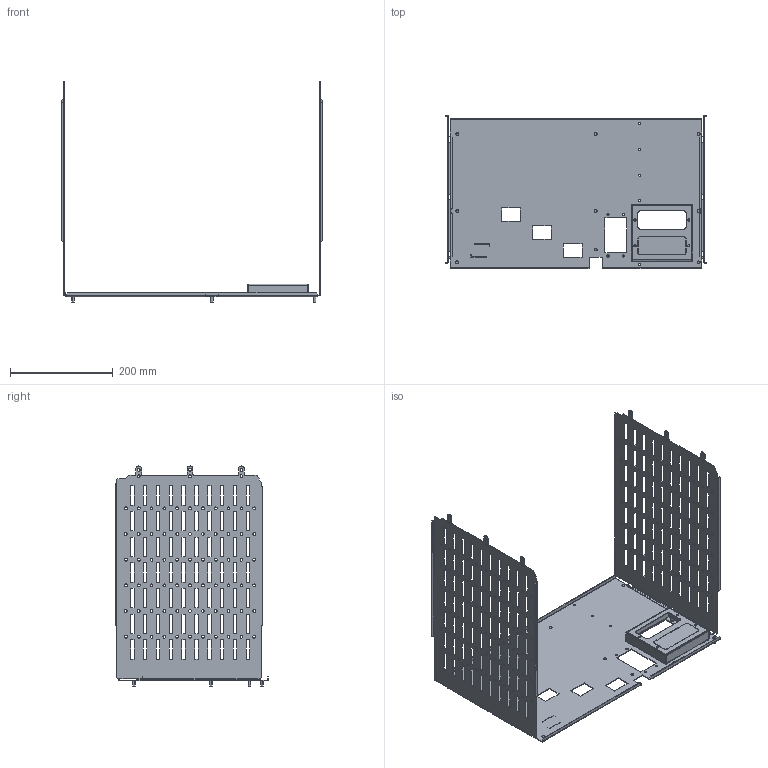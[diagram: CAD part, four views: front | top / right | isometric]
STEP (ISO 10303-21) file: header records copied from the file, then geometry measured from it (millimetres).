
FILE_DESCRIPTION(('CAx-IF Rec.Pracs.---Model Styling and Organization---1.2---2011-12-15','CAx-IF Rec.Pracs.---Geometric and Assembly Validation Properties---4.1---2014-06-16','CAx-IF Rec.Pracs.---PMI Polyline Presentation---2.0---2013-05-24'),'2;1');
FILE_NAME('R5M2W6M1A21.stp','2021-05-05T12:29:34+03:00',(''),(''),'STEP Interface 4.4 by CT CoreTechnologie','3D_Evolution4.4 by CT CoreTechnologie','');
FILE_SCHEMA(('AUTOMOTIVE_DESIGN { 1 0 10303 214 1 1 1 1 }'));
Length unit declared in the file: millimetre
Products named in the file (6): R5M2W6M1A21; M5x8-DIN7500C_stright; RB.1285.00.00.0_-12; RB.1285.00.00.0_-13; RB.1257.00.00.0_-10; RB.1568.00.00.0_-00
Assembly tree (17 placements, depth 2):
  R5M2W6M1A21
    M5x8-DIN7500C_stright  x13
    RB.1285.00.00.0_-12
    RB.1285.00.00.0_-13
    RB.1257.00.00.0_-10
    RB.1568.00.00.0_-00
Bounding box: 510 x 297.5 x 428.6 mm (x, y, z)
Surface area: 724066.1 mm2 (no closed solid volume)
Topology: 0 solids, 18 shells, 1311 faces, 3824 edges, 2537 vertices
Faces by surface type: plane 843, cylinder 460, bspline 8
Entity records: 44315 total; most frequent: CARTESIAN_POINT 7848, ORIENTED_EDGE 7504, DIRECTION 7148, EDGE_CURVE 3752, VECTOR 2874, LINE 2874, VERTEX_POINT 2489, AXIS2_PLACEMENT_3D 2137
